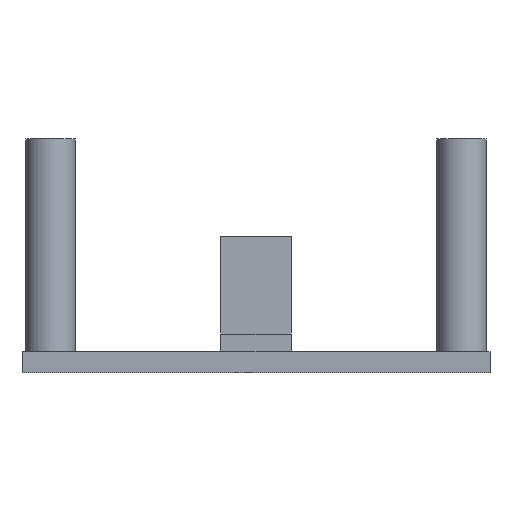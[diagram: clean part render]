
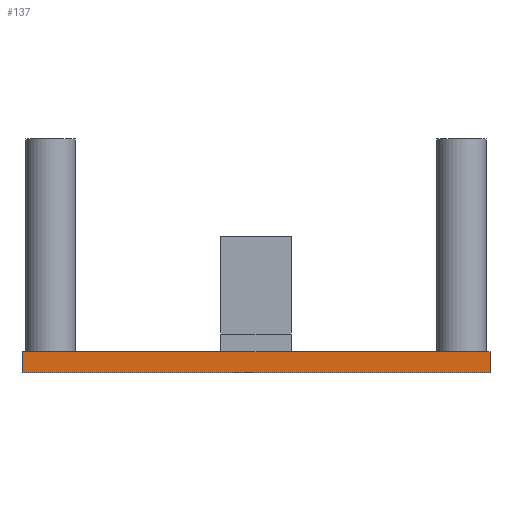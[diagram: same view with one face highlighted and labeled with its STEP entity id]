
A CAD part, front view. The second image highlights one B-rep face of the part: STEP entity #137.
In plain terms, the highlighted planar face has unit normal (0, -1, 0).
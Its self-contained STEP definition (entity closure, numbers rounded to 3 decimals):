
#21 = EDGE_CURVE('',#22,#24,#26,.T.);
#22 = VERTEX_POINT('',#23);
#23 = CARTESIAN_POINT('',(-33.,-33.,0.));
#24 = VERTEX_POINT('',#25);
#25 = CARTESIAN_POINT('',(-33.,-33.,3.));
#26 = SURFACE_CURVE('',#27,(#31,#43),.PCURVE_S1.);
#27 = LINE('',#28,#29);
#28 = CARTESIAN_POINT('',(-33.,-33.,0.));
#29 = VECTOR('',#30,1.);
#30 = DIRECTION('',(0.,0.,1.));
#31 = PCURVE('',#32,#37);
#32 = PLANE('',#33);
#33 = AXIS2_PLACEMENT_3D('',#34,#35,#36);
#34 = CARTESIAN_POINT('',(-33.,-33.,0.));
#35 = DIRECTION('',(1.,0.,-0.));
#36 = DIRECTION('',(0.,0.,1.));
#37 = DEFINITIONAL_REPRESENTATION('',(#38),#42);
#38 = LINE('',#39,#40);
#39 = CARTESIAN_POINT('',(0.,0.));
#40 = VECTOR('',#41,1.);
#41 = DIRECTION('',(1.,0.));
#42 = ( GEOMETRIC_REPRESENTATION_CONTEXT(2) 
PARAMETRIC_REPRESENTATION_CONTEXT() REPRESENTATION_CONTEXT('2D SPACE',''
  ) );
#43 = PCURVE('',#44,#49);
#44 = PLANE('',#45);
#45 = AXIS2_PLACEMENT_3D('',#46,#47,#48);
#46 = CARTESIAN_POINT('',(-33.,-33.,0.));
#47 = DIRECTION('',(-0.,1.,0.));
#48 = DIRECTION('',(0.,0.,1.));
#49 = DEFINITIONAL_REPRESENTATION('',(#50),#54);
#50 = LINE('',#51,#52);
#51 = CARTESIAN_POINT('',(0.,0.));
#52 = VECTOR('',#53,1.);
#53 = DIRECTION('',(1.,0.));
#54 = ( GEOMETRIC_REPRESENTATION_CONTEXT(2) 
PARAMETRIC_REPRESENTATION_CONTEXT() REPRESENTATION_CONTEXT('2D SPACE',''
  ) );
#72 = PLANE('',#73);
#73 = AXIS2_PLACEMENT_3D('',#74,#75,#76);
#74 = CARTESIAN_POINT('',(-33.,-33.,0.));
#75 = DIRECTION('',(0.,0.,1.));
#76 = DIRECTION('',(1.,0.,-0.));
#126 = PLANE('',#127);
#127 = AXIS2_PLACEMENT_3D('',#128,#129,#130);
#128 = CARTESIAN_POINT('',(-33.,-33.,3.));
#129 = DIRECTION('',(0.,0.,1.));
#130 = DIRECTION('',(1.,0.,-0.));
#137 = ADVANCED_FACE('',(#138),#44,.F.);
#138 = FACE_BOUND('',#139,.F.);
#139 = EDGE_LOOP('',(#140,#163,#164,#187,#215,#238));
#140 = ORIENTED_EDGE('',*,*,#141,.F.);
#141 = EDGE_CURVE('',#22,#142,#144,.T.);
#142 = VERTEX_POINT('',#143);
#143 = CARTESIAN_POINT('',(33.,-33.,0.));
#144 = SURFACE_CURVE('',#145,(#149,#156),.PCURVE_S1.);
#145 = LINE('',#146,#147);
#146 = CARTESIAN_POINT('',(-33.,-33.,0.));
#147 = VECTOR('',#148,1.);
#148 = DIRECTION('',(1.,0.,-0.));
#149 = PCURVE('',#44,#150);
#150 = DEFINITIONAL_REPRESENTATION('',(#151),#155);
#151 = LINE('',#152,#153);
#152 = CARTESIAN_POINT('',(0.,0.));
#153 = VECTOR('',#154,1.);
#154 = DIRECTION('',(0.,1.));
#155 = ( GEOMETRIC_REPRESENTATION_CONTEXT(2) 
PARAMETRIC_REPRESENTATION_CONTEXT() REPRESENTATION_CONTEXT('2D SPACE',''
  ) );
#156 = PCURVE('',#72,#157);
#157 = DEFINITIONAL_REPRESENTATION('',(#158),#162);
#158 = LINE('',#159,#160);
#159 = CARTESIAN_POINT('',(0.,0.));
#160 = VECTOR('',#161,1.);
#161 = DIRECTION('',(1.,0.));
#162 = ( GEOMETRIC_REPRESENTATION_CONTEXT(2) 
PARAMETRIC_REPRESENTATION_CONTEXT() REPRESENTATION_CONTEXT('2D SPACE',''
  ) );
#163 = ORIENTED_EDGE('',*,*,#21,.T.);
#164 = ORIENTED_EDGE('',*,*,#165,.T.);
#165 = EDGE_CURVE('',#24,#166,#168,.T.);
#166 = VERTEX_POINT('',#167);
#167 = CARTESIAN_POINT('',(-5.,-33.,3.));
#168 = SURFACE_CURVE('',#169,(#173,#180),.PCURVE_S1.);
#169 = LINE('',#170,#171);
#170 = CARTESIAN_POINT('',(-33.,-33.,3.));
#171 = VECTOR('',#172,1.);
#172 = DIRECTION('',(1.,0.,-0.));
#173 = PCURVE('',#44,#174);
#174 = DEFINITIONAL_REPRESENTATION('',(#175),#179);
#175 = LINE('',#176,#177);
#176 = CARTESIAN_POINT('',(3.,0.));
#177 = VECTOR('',#178,1.);
#178 = DIRECTION('',(0.,1.));
#179 = ( GEOMETRIC_REPRESENTATION_CONTEXT(2) 
PARAMETRIC_REPRESENTATION_CONTEXT() REPRESENTATION_CONTEXT('2D SPACE',''
  ) );
#180 = PCURVE('',#126,#181);
#181 = DEFINITIONAL_REPRESENTATION('',(#182),#186);
#182 = LINE('',#183,#184);
#183 = CARTESIAN_POINT('',(0.,0.));
#184 = VECTOR('',#185,1.);
#185 = DIRECTION('',(1.,0.));
#186 = ( GEOMETRIC_REPRESENTATION_CONTEXT(2) 
PARAMETRIC_REPRESENTATION_CONTEXT() REPRESENTATION_CONTEXT('2D SPACE',''
  ) );
#187 = ORIENTED_EDGE('',*,*,#188,.T.);
#188 = EDGE_CURVE('',#166,#189,#191,.T.);
#189 = VERTEX_POINT('',#190);
#190 = CARTESIAN_POINT('',(5.,-33.,3.));
#191 = SURFACE_CURVE('',#192,(#196,#203),.PCURVE_S1.);
#192 = LINE('',#193,#194);
#193 = CARTESIAN_POINT('',(-33.,-33.,3.));
#194 = VECTOR('',#195,1.);
#195 = DIRECTION('',(1.,0.,-0.));
#196 = PCURVE('',#44,#197);
#197 = DEFINITIONAL_REPRESENTATION('',(#198),#202);
#198 = LINE('',#199,#200);
#199 = CARTESIAN_POINT('',(3.,0.));
#200 = VECTOR('',#201,1.);
#201 = DIRECTION('',(0.,1.));
#202 = ( GEOMETRIC_REPRESENTATION_CONTEXT(2) 
PARAMETRIC_REPRESENTATION_CONTEXT() REPRESENTATION_CONTEXT('2D SPACE',''
  ) );
#203 = PCURVE('',#204,#209);
#204 = PLANE('',#205);
#205 = AXIS2_PLACEMENT_3D('',#206,#207,#208);
#206 = CARTESIAN_POINT('',(-5.,-33.75,3.));
#207 = DIRECTION('',(0.,0.,1.));
#208 = DIRECTION('',(1.,0.,-0.));
#209 = DEFINITIONAL_REPRESENTATION('',(#210),#214);
#210 = LINE('',#211,#212);
#211 = CARTESIAN_POINT('',(-28.,0.75));
#212 = VECTOR('',#213,1.);
#213 = DIRECTION('',(1.,0.));
#214 = ( GEOMETRIC_REPRESENTATION_CONTEXT(2) 
PARAMETRIC_REPRESENTATION_CONTEXT() REPRESENTATION_CONTEXT('2D SPACE',''
  ) );
#215 = ORIENTED_EDGE('',*,*,#216,.T.);
#216 = EDGE_CURVE('',#189,#217,#219,.T.);
#217 = VERTEX_POINT('',#218);
#218 = CARTESIAN_POINT('',(33.,-33.,3.));
#219 = SURFACE_CURVE('',#220,(#224,#231),.PCURVE_S1.);
#220 = LINE('',#221,#222);
#221 = CARTESIAN_POINT('',(-33.,-33.,3.));
#222 = VECTOR('',#223,1.);
#223 = DIRECTION('',(1.,0.,-0.));
#224 = PCURVE('',#44,#225);
#225 = DEFINITIONAL_REPRESENTATION('',(#226),#230);
#226 = LINE('',#227,#228);
#227 = CARTESIAN_POINT('',(3.,0.));
#228 = VECTOR('',#229,1.);
#229 = DIRECTION('',(0.,1.));
#230 = ( GEOMETRIC_REPRESENTATION_CONTEXT(2) 
PARAMETRIC_REPRESENTATION_CONTEXT() REPRESENTATION_CONTEXT('2D SPACE',''
  ) );
#231 = PCURVE('',#126,#232);
#232 = DEFINITIONAL_REPRESENTATION('',(#233),#237);
#233 = LINE('',#234,#235);
#234 = CARTESIAN_POINT('',(0.,0.));
#235 = VECTOR('',#236,1.);
#236 = DIRECTION('',(1.,0.));
#237 = ( GEOMETRIC_REPRESENTATION_CONTEXT(2) 
PARAMETRIC_REPRESENTATION_CONTEXT() REPRESENTATION_CONTEXT('2D SPACE',''
  ) );
#238 = ORIENTED_EDGE('',*,*,#239,.F.);
#239 = EDGE_CURVE('',#142,#217,#240,.T.);
#240 = SURFACE_CURVE('',#241,(#245,#252),.PCURVE_S1.);
#241 = LINE('',#242,#243);
#242 = CARTESIAN_POINT('',(33.,-33.,0.));
#243 = VECTOR('',#244,1.);
#244 = DIRECTION('',(0.,0.,1.));
#245 = PCURVE('',#44,#246);
#246 = DEFINITIONAL_REPRESENTATION('',(#247),#251);
#247 = LINE('',#248,#249);
#248 = CARTESIAN_POINT('',(0.,66.));
#249 = VECTOR('',#250,1.);
#250 = DIRECTION('',(1.,0.));
#251 = ( GEOMETRIC_REPRESENTATION_CONTEXT(2) 
PARAMETRIC_REPRESENTATION_CONTEXT() REPRESENTATION_CONTEXT('2D SPACE',''
  ) );
#252 = PCURVE('',#253,#258);
#253 = PLANE('',#254);
#254 = AXIS2_PLACEMENT_3D('',#255,#256,#257);
#255 = CARTESIAN_POINT('',(33.,-33.,0.));
#256 = DIRECTION('',(1.,0.,-0.));
#257 = DIRECTION('',(0.,0.,1.));
#258 = DEFINITIONAL_REPRESENTATION('',(#259),#263);
#259 = LINE('',#260,#261);
#260 = CARTESIAN_POINT('',(0.,0.));
#261 = VECTOR('',#262,1.);
#262 = DIRECTION('',(1.,0.));
#263 = ( GEOMETRIC_REPRESENTATION_CONTEXT(2) 
PARAMETRIC_REPRESENTATION_CONTEXT() REPRESENTATION_CONTEXT('2D SPACE',''
  ) );
